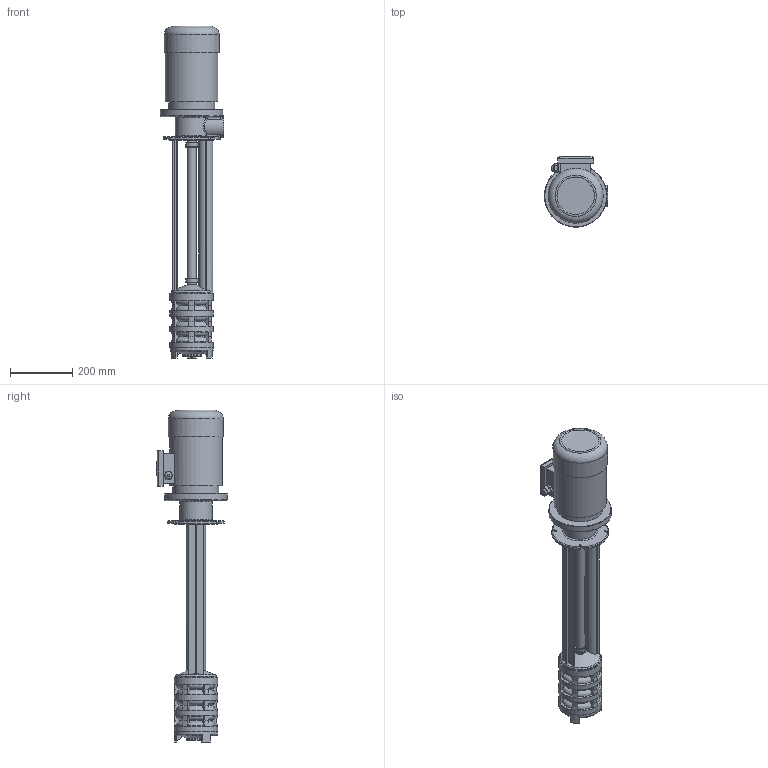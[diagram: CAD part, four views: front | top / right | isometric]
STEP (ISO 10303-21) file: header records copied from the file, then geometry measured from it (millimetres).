
FILE_DESCRIPTION(/* description */ ('Unknown'),/* implementation_level */ '2;1');
FILE_NAME(/* name */ 'gp4-700',/* time_stamp */ '2025-06-12T11:04:17+03:00',/* author */ ('Unknown'),/* organization */ ('Unknown'),/* preprocessor_version */ 'ST-DEVELOPER v16.7',/* originating_system */ 'DEX',/* authorisation */ $);
FILE_SCHEMA (('AUTOMOTIVE_DESIGN {1 0 10303 214 3 1 1}'));
Length unit declared in the file: millimetre
Products named in the file (1): gp4-700
Bounding box: 202 x 225 x 1063.33 mm (x, y, z)
Volume: 12461833.8 mm3; surface area: 661748.7 mm2
Topology: 1 solids, 1 shells, 430 faces, 1128 edges, 731 vertices
Faces by surface type: plane 146, cylinder 86, bspline 84, cone 61, torus 53
Full cylindrical faces by diameter (mm): 17 x1, 21.5 x1, 29 x3, 33 x2, 35 x2, 39 x2, 40.5 x2, 45 x1, 47 x1, 60 x1, 137 x1, 139 x4, 140 x1, 168.001 x1, 176 x1, 200 x1
Entity records: 15841 total; most frequent: CARTESIAN_POINT 5836, ORIENTED_EDGE 2120, DIRECTION 1931, EDGE_CURVE 1060, AXIS2_PLACEMENT_3D 731, VERTEX_POINT 718, EDGE_LOOP 520, FACE_BOUND 520
